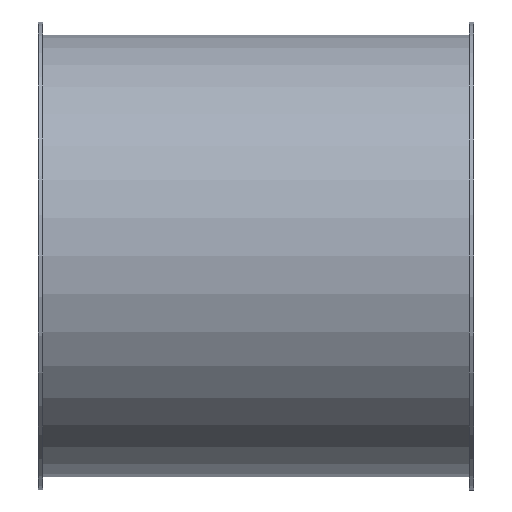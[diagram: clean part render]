
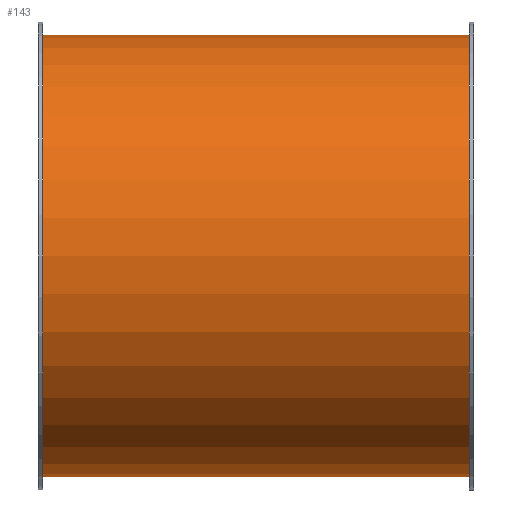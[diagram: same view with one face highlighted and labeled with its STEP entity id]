
A CAD part, front view. The second image highlights one B-rep face of the part: STEP entity #143.
In plain terms, the highlighted cylindrical face has radius 101.5 mm (diameter 203 mm), a full revolution.
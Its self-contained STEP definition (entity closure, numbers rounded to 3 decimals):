
#112=CARTESIAN_POINT('',(166.119,2.817,0.0));
#113=VERTEX_POINT('',#112);
#114=CARTESIAN_POINT('',(166.119,104.317,0.0));
#115=DIRECTION('',(-1.0,0.0,0.0));
#116=DIRECTION('',(0.0,-1.0,0.0));
#117=AXIS2_PLACEMENT_3D('',#114,#115,#116);
#118=CIRCLE('',#117,101.5);
#119=EDGE_CURVE('',#113,#113,#118,.T.);
#124=CARTESIAN_POINT('',(68.119,104.317,0.0));
#125=DIRECTION('',(-1.0,0.,0.0));
#126=DIRECTION('',(0.0,-1.0,0.0));
#127=AXIS2_PLACEMENT_3D('',#124,#125,#126);
#128=CYLINDRICAL_SURFACE('',#127,101.5);
#129=CARTESIAN_POINT('',(-29.881,2.817,0.0));
#130=VERTEX_POINT('',#129);
#131=CARTESIAN_POINT('',(-29.881,104.317,0.0));
#132=DIRECTION('',(-1.0,0.0,0.0));
#133=DIRECTION('',(0.0,-1.0,0.0));
#134=AXIS2_PLACEMENT_3D('',#131,#132,#133);
#135=CIRCLE('',#134,101.5);
#136=EDGE_CURVE('',#130,#130,#135,.T.);
#137=ORIENTED_EDGE('',*,*,#136,.F.);
#138=EDGE_LOOP('',(#137));
#139=FACE_OUTER_BOUND('',#138,.T.);
#140=ORIENTED_EDGE('',*,*,#119,.T.);
#141=EDGE_LOOP('',(#140));
#142=FACE_BOUND('',#141,.T.);
#143=ADVANCED_FACE('',(#139,#142),#128,.T.);
